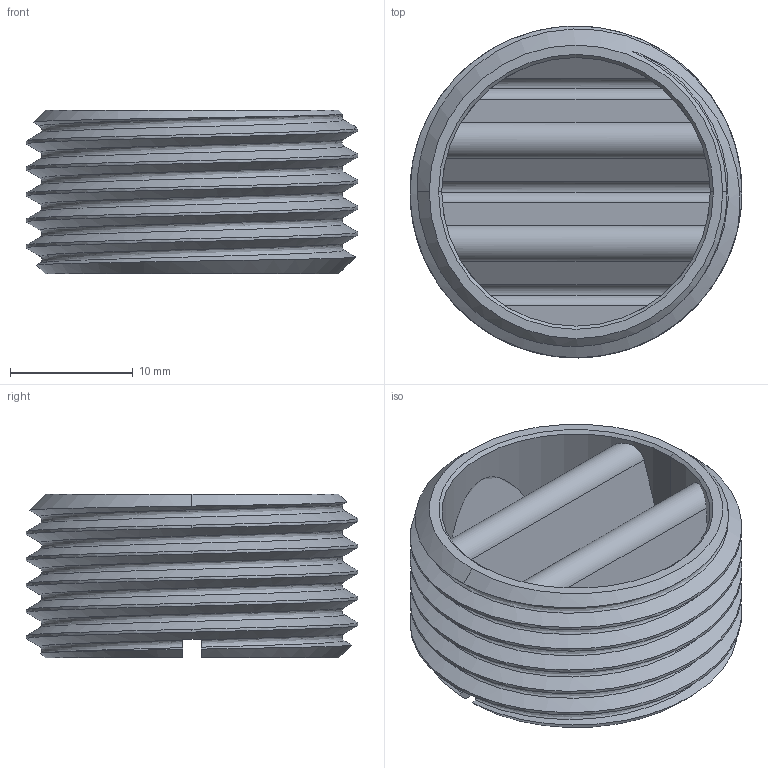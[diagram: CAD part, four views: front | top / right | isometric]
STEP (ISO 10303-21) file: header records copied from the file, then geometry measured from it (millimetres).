
FILE_DESCRIPTION (( 'STEP AP214' ), '1' );
FILE_NAME ('3DFSBS1061000A.STEP', '2021-03-31T17:50:50', ( '' ), ( '' ), 'SwSTEP 2.0', 'SolidWorks 2019', '' );
FILE_SCHEMA (( 'AUTOMOTIVE_DESIGN' ));
Length unit declared in the file: inch
Products named in the file (1): 3DFSBS1061000A
Bounding box: 26.99 x 26.99 x 13.34 mm (x, y, z)
Volume: 2629.1 mm3; surface area: 4975.6 mm2
Topology: 2 solids, 2 shells, 257 faces, 681 edges, 451 vertices
Faces by surface type: plane 124, bspline 89, cylinder 33, cone 11
Entity records: 18844 total; most frequent: CARTESIAN_POINT 10558, ORIENTED_EDGE 1362, DIRECTION 770, EDGE_CURVE 681, VERTEX_POINT 451, LINE 382, VECTOR 382, EDGE_LOOP 282
